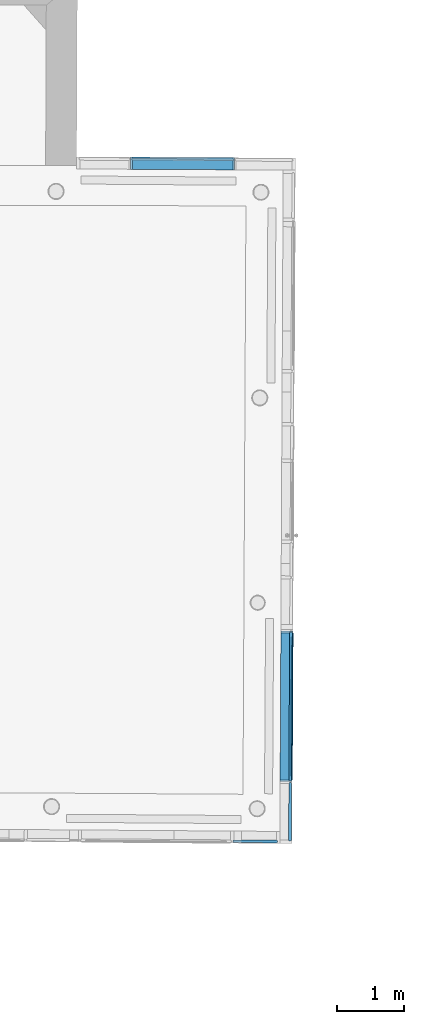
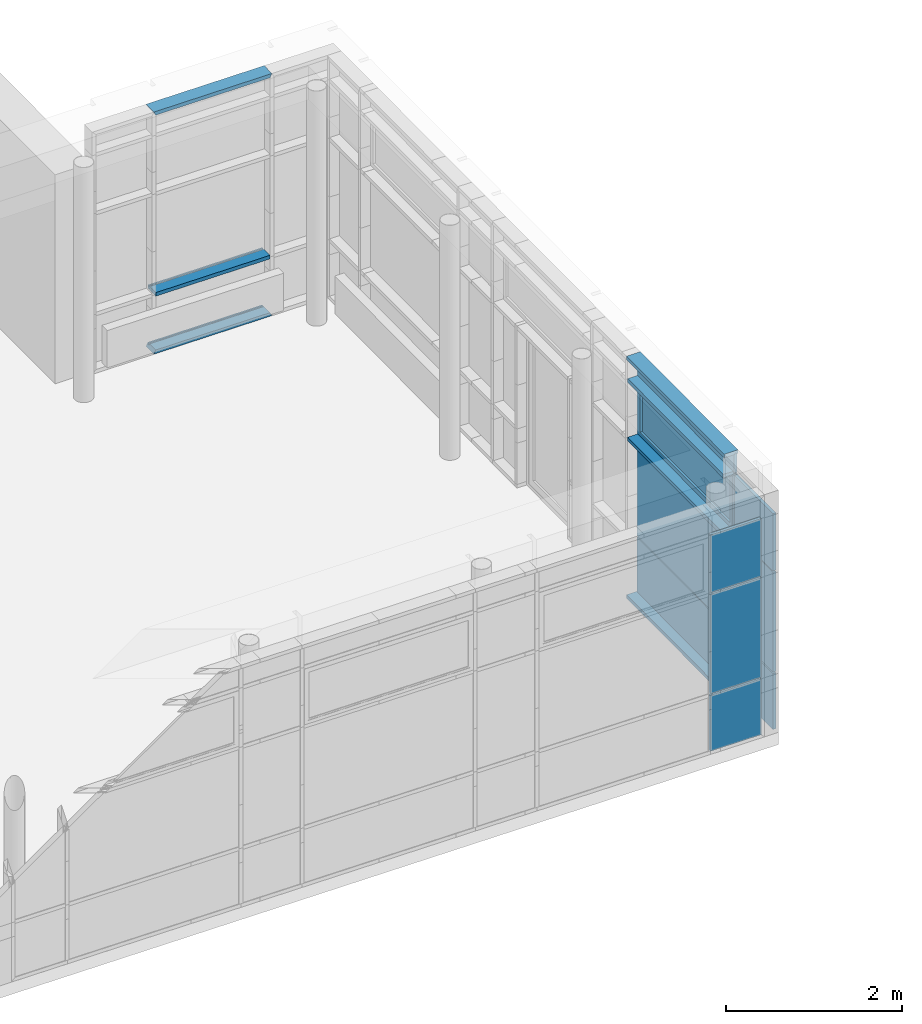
# One storey, part 143 of 196: 18 building element parts, 3 elements without a shape of their own.
"""IFC2X3 building model written with IfcOpenShell, lengths in metres."""

from ifc_helpers import new_model, entity, si_unit, converted_unit, derived_unit, money_unit, direction, frame, origin_with_axes, place, context, subcontext, project, spatial, faceted_brep, material, type_object, element, aggregate, save


model = new_model("IFC2X3")

# Units and contexts
model_context = context("Model", 3, precision=1e-05, world=origin_with_axes(), true_north=direction((0.0, 1.0)))
body_context = subcontext(model_context, "Body", "Model", "MODEL_VIEW")
ifc_project = project(units=[si_unit("LENGTHUNIT", "METRE"), si_unit("AREAUNIT", "SQUARE_METRE"), si_unit("VOLUMEUNIT", "CUBIC_METRE"), converted_unit("PLANEANGLEUNIT", "DEGREE", entity("IfcPlaneAngleMeasure", 0.0174532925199), si_unit("PLANEANGLEUNIT", "RADIAN"), dimensions=[0, 0, 0, 0, 0, 0, 0]), money_unit("EUR"), converted_unit("TIMEUNIT", "Year", entity("IfcTimeMeasure", 31556926.0), si_unit("TIMEUNIT", "SECOND"), dimensions=[0, 0, 1, 0, 0, 0, 0]), si_unit("MASSUNIT", "GRAM", prefix="KILO"), si_unit("THERMODYNAMICTEMPERATUREUNIT", "DEGREE_CELSIUS"), si_unit("LUMINOUSINTENSITYUNIT", "LUMEN"), si_unit("ENERGYUNIT", "JOULE", prefix="MEGA"), derived_unit("THERMALCONDUCTANCEUNIT", [(si_unit("POWERUNIT", "WATT"), 1), (si_unit("LENGTHUNIT", "METRE"), -1), (si_unit("THERMODYNAMICTEMPERATUREUNIT", "KELVIN"), -1)]), derived_unit("SPECIFICHEATCAPACITYUNIT", [(si_unit("ENERGYUNIT", "JOULE"), 1), (si_unit("MASSUNIT", "GRAM", prefix="KILO"), -1), (si_unit("THERMODYNAMICTEMPERATUREUNIT", "KELVIN"), -1)]), derived_unit("MASSDENSITYUNIT", [(si_unit("MASSUNIT", "GRAM", prefix="KILO"), 1), (si_unit("VOLUMEUNIT", "CUBIC_METRE"), -1)])], contexts=[model_context])

# Site, building, storey
site_placement = place(None, origin_with_axes())
site = spatial("IfcSite", under=ifc_project, at=site_placement, Name="Gelände", CompositionType="ELEMENT")
building_placement = place(site_placement, origin_with_axes())
building = spatial("IfcBuilding", under=site, at=building_placement, Name="Gebäude", CompositionType="ELEMENT")
storey_placement = place(building_placement, frame((0.0, 0.0, -3.0), z_axis=(0.0, 0.0, 1.0), x_axis=(1.0, 0.0, 0.0)))
storey = spatial("IfcBuildingStorey", under=building, at=storey_placement, Name="KELLERGESCHOSS", CompositionType="ELEMENT", Elevation=-3.0)

# Proxy, building element parts
building_element_proxy_type = type_object("IfcBuildingElementProxyType", Name="Fassadentyp", PredefinedType="NOTDEFINED")
proxy_1_placement = place(storey_placement, frame((2.54090824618, 35.7894672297, 0.610000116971), z_axis=(0.0, 0.0, 1.0), x_axis=(1.0, 0.0, 0.0)))
proxy_1 = element("IfcBuildingElementProxy", 1, at=proxy_1_placement, inside=storey, type_object=building_element_proxy_type, Name="Fassade-002")
ifc_material_1 = material(Name="45_Glas, Normalglas")
building_element_part_1_placement = place(proxy_1_placement, origin_with_axes())
building_element_part_1 = element("IfcBuildingElementPart", 2, at=building_element_part_1_placement, material=ifc_material_1, Name="45_Glas, Normalglas", context=body_context, shape_type="Brep", body=[
    faceted_brep([(6.42574015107, -0.0265612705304, 0.808463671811), (5.88927095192, -0.0226739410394, 0.808463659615), (5.88898111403, -0.0626728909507, 0.808463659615), (6.42545031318, -0.0665602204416, 0.808463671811), (6.42574015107, -0.0265612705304, 0.619999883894), (6.42574015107, -0.0265612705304, 0.0350000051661), (5.88927093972, -0.0226739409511, 0.0349999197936), (5.76502929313, -0.0217736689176, 0.0349999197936), (5.76502928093, -0.0217736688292, 0.619999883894), (5.76502928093, -0.0217736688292, 0.808463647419), (5.76473944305, -0.0617726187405, 0.808463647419), (5.76473944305, -0.0617726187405, 0.619999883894), (5.76473945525, -0.0617726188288, 0.0349999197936), (5.88898110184, -0.0626728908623, 0.0349999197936), (6.42545031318, -0.0665602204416, 0.0350000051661), (6.42545031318, -0.0665602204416, 0.619999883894)], [[[0, 1, 2, 3]], [[0, 4, 5, 6, 7, 8, 9, 1]], [[1, 9, 10, 2]], [[3, 2, 10, 11, 12, 13, 14, 15]], [[4, 0, 3, 15]], [[5, 4, 15, 14]], [[6, 5, 14, 13]], [[7, 6, 13, 12]], [[8, 7, 12, 11]], [[9, 8, 11, 10]]]),
])
building_element_part_2_placement = place(proxy_1_placement, origin_with_axes())
building_element_part_2 = element("IfcBuildingElementPart", 3, at=building_element_part_2_placement, material=ifc_material_1, Name="45_Glas, Normalglas", context=body_context, shape_type="Brep", body=[
    faceted_brep([(6.42574015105, -0.0265612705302, 3.02649576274), (5.8892709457, -0.0226739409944, 3.02649576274), (5.88898110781, -0.0626728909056, 3.02649576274), (6.42545031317, -0.0665602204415, 3.02649576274), (6.42574015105, -0.0265612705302, 2.51999987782), (6.42574015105, -0.0265612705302, 2.22648768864), (5.8892709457, -0.0226739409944, 2.22648768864), (5.76502928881, -0.0217736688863, 2.22648768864), (5.76502928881, -0.0217736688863, 2.51999987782), (5.76502928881, -0.0217736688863, 3.02649576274), (5.76473945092, -0.0617726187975, 3.02649576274), (5.76473945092, -0.0617726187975, 2.51999987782), (5.76473945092, -0.0617726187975, 2.22648768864), (5.88898110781, -0.0626728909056, 2.22648768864), (6.42545031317, -0.0665602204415, 2.22648768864), (6.42545031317, -0.0665602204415, 2.51999987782)], [[[0, 1, 2, 3]], [[0, 4, 5, 6, 7, 8, 9, 1]], [[1, 9, 10, 2]], [[3, 2, 10, 11, 12, 13, 14, 15]], [[4, 0, 3, 15]], [[5, 4, 15, 14]], [[6, 5, 14, 13]], [[7, 6, 13, 12]], [[8, 7, 12, 11]], [[9, 8, 11, 10]]]),
])
building_element_part_3_placement = place(proxy_1_placement, origin_with_axes())
building_element_part_3 = element("IfcBuildingElementPart", 4, at=building_element_part_3_placement, material=ifc_material_1, Name="45_Glas, Normalglas", context=body_context, shape_type="Brep", body=[
    faceted_brep([(6.42574014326, -0.0265612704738, 2.20648769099), (5.88927095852, -0.0226739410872, 2.20648769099), (5.88898112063, -0.0626728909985, 2.20648769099), (6.42545030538, -0.066560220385, 2.20648769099), (6.42574014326, -0.0265612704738, 1.41999988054), (6.42574014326, -0.0265612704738, 0.828463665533), (5.88927095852, -0.0226739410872, 0.828463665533), (5.76502928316, -0.0217736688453, 0.828463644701), (5.76502928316, -0.0217736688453, 1.41999988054), (5.76502928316, -0.0217736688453, 2.20648769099), (5.76473944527, -0.0617726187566, 2.20648769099), (5.76473944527, -0.0617726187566, 1.41999988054), (5.76473944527, -0.0617726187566, 0.828463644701), (5.88898112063, -0.0626728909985, 0.828463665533), (6.42545030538, -0.066560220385, 0.828463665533), (6.42545030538, -0.066560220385, 1.41999988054)], [[[0, 1, 2, 3]], [[0, 4, 5, 6, 7, 8, 9, 1]], [[1, 9, 10, 2]], [[3, 2, 10, 11, 12, 13, 14, 15]], [[4, 0, 3, 15]], [[5, 4, 15, 14]], [[6, 5, 14, 13]], [[7, 6, 13, 12]], [[8, 7, 12, 11]], [[9, 8, 11, 10]]]),
])
aggregate(proxy_1, [building_element_part_1, building_element_part_2, building_element_part_3])

proxy_2_placement = place(storey_placement, frame((9.16160365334, 37.7476945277, 0.610000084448), z_axis=(0.0, 0.0, 1.0), x_axis=(1.0, 0.0, 0.0)))
proxy_2 = element("IfcBuildingElementProxy", 5, at=proxy_2_placement, inside=storey, type_object=building_element_proxy_type, Name="Fassade-002")
building_element_part_4_placement = place(proxy_2_placement, origin_with_axes())
building_element_part_4 = element("IfcBuildingElementPart", 6, at=building_element_part_4_placement, material=ifc_material_1, Name="45_Glas, Normalglas", context=body_context, shape_type="Brep", body=[
    faceted_brep([(-0.0143916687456, 1.10641038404, 2.20916308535), (-0.0256078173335, -1.10620761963, 2.20916308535), (0.0143916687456, -1.10641038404, 2.20916308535), (0.0256078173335, 1.10620761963, 2.20916308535), (-0.0143916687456, 1.10641038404, 1.41999990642), (-0.0143916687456, 1.10641038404, 0.827169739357), (-0.0256078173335, -1.10620761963, 0.827169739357), (-0.0256078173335, -1.10620761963, 1.41999990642), (0.0143916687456, -1.10641038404, 1.41999990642), (0.0143916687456, -1.10641038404, 0.827169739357), (0.0256078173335, 1.10620761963, 0.827169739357), (0.0256078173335, 1.10620761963, 1.41999990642)], [[[0, 1, 2, 3]], [[0, 4, 5, 6, 7, 1]], [[1, 7, 8, 2]], [[3, 2, 8, 9, 10, 11]], [[4, 0, 3, 11]], [[5, 4, 11, 10]], [[6, 5, 10, 9]], [[7, 6, 9, 8]]]),
])
building_element_part_5_placement = place(proxy_2_placement, origin_with_axes())
building_element_part_5 = element("IfcBuildingElementPart", 7, at=building_element_part_5_placement, material=ifc_material_1, Name="45_Glas, Normalglas", context=body_context, shape_type="Brep", body=[
    faceted_brep([(-0.0257091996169, -1.12620737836, 2.20916309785), (-0.0301408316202, -2.00043873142, 2.20916309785), (0.00985865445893, -2.00064149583, 2.20916309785), (0.0142902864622, -1.12641014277, 2.20916309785), (-0.0257091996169, -1.12620737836, 1.41999990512), (-0.0257091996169, -1.12620737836, 0.827169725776), (-0.0301408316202, -2.00043873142, 0.827169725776), (-0.0301408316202, -2.00043873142, 1.41999990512), (0.00985865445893, -2.00064149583, 1.41999990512), (0.00985865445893, -2.00064149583, 0.827169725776), (0.0142902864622, -1.12641014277, 0.827169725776), (0.0142902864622, -1.12641014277, 1.41999990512)], [[[0, 1, 2, 3]], [[0, 4, 5, 6, 7, 1]], [[1, 7, 8, 2]], [[3, 2, 8, 9, 10, 11]], [[4, 0, 3, 11]], [[5, 4, 11, 10]], [[6, 5, 10, 9]], [[7, 6, 9, 8]]]),
])
building_element_part_6_placement = place(proxy_2_placement, origin_with_axes())
building_element_part_6 = element("IfcBuildingElementPart", 8, at=building_element_part_6_placement, material=ifc_material_1, Name="45_Glas, Normalglas", context=body_context, shape_type="Brep", body=[
    faceted_brep([(-0.0257091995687, -1.12620736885, 3.01949640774), (-0.030140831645, -2.00043873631, 3.01949640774), (0.00985865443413, -2.00064150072, 3.01949640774), (0.0142902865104, -1.12641013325, 3.01949640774), (-0.0257091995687, -1.12620736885, 2.51999991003), (-0.0257091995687, -1.12620736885, 2.22916309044), (-0.030140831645, -2.00043873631, 2.22916309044), (-0.030140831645, -2.00043873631, 2.51999991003), (0.00985865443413, -2.00064150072, 2.51999991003), (0.00985865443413, -2.00064150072, 2.22916309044), (0.0142902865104, -1.12641013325, 2.22916309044), (0.0142902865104, -1.12641013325, 2.51999991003)], [[[0, 1, 2, 3]], [[0, 4, 5, 6, 7, 1]], [[1, 7, 8, 2]], [[3, 2, 8, 9, 10, 11]], [[4, 0, 3, 11]], [[5, 4, 11, 10]], [[6, 5, 10, 9]], [[7, 6, 9, 8]]]),
])
building_element_part_7_placement = place(proxy_2_placement, origin_with_axes())
building_element_part_7 = element("IfcBuildingElementPart", 9, at=building_element_part_7_placement, material=ifc_material_1, Name="45_Glas, Normalglas", context=body_context, shape_type="Brep", body=[
    faceted_brep([(-0.0143916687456, 1.10641038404, 3.31499993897), (-0.0256078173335, -1.10620761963, 3.31499993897), (0.0143916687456, -1.10641038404, 3.31499993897), (0.0256078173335, 1.10620761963, 3.31499993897), (-0.0143916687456, 1.10641038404, 3.03949642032), (-0.0256078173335, -1.10620761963, 3.03949642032), (0.0143916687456, -1.10641038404, 3.03949642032), (0.0256078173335, 1.10620761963, 3.03949642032)], [[[0, 1, 2, 3]], [[0, 4, 5, 1]], [[1, 5, 6, 2]], [[3, 2, 6, 7]], [[4, 0, 3, 7]], [[5, 4, 7, 6]]]),
])
building_element_part_8_placement = place(proxy_2_placement, origin_with_axes())
building_element_part_8 = element("IfcBuildingElementPart", 10, at=building_element_part_8_placement, material=ifc_material_1, Name="45_Glas, Normalglas", context=body_context, shape_type="Brep", body=[
    faceted_brep([(-0.0143916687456, 1.10641038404, 0.807169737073), (-0.0256078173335, -1.10620761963, 0.807169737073), (0.0143916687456, -1.10641038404, 0.807169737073), (0.0256078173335, 1.10620761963, 0.807169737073), (-0.0143916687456, 1.10641038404, 0.619999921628), (-0.0143916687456, 1.10641038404, 0.0349998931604), (-0.0256078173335, -1.10620761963, 0.0349999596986), (-0.0256078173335, -1.10620761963, 0.619999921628), (0.0143916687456, -1.10641038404, 0.619999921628), (0.0143916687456, -1.10641038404, 0.0349999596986), (0.0256078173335, 1.10620761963, 0.0349998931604), (0.0256078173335, 1.10620761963, 0.619999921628)], [[[0, 1, 2, 3]], [[0, 4, 5, 6, 7, 1]], [[1, 7, 8, 2]], [[3, 2, 8, 9, 10, 11]], [[4, 0, 3, 11]], [[5, 4, 11, 10]], [[6, 5, 10, 9]], [[7, 6, 9, 8]]]),
])
building_element_part_9_placement = place(proxy_2_placement, origin_with_axes())
building_element_part_9 = element("IfcBuildingElementPart", 11, at=building_element_part_9_placement, material=ifc_material_1, Name="45_Glas, Normalglas", context=body_context, shape_type="Brep", body=[
    faceted_brep([(-0.0257091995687, -1.12620736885, 0.807169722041), (-0.030140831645, -2.00043873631, 0.807169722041), (0.00985865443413, -2.00064150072, 0.807169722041), (0.0142902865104, -1.12641013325, 0.807169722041), (-0.0257091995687, -1.12620736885, 0.619999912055), (-0.0257091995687, -1.12620736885, 0.0349999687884), (-0.030140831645, -2.00043873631, 0.034999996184), (-0.030140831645, -2.00043873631, 0.619999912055), (0.00985865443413, -2.00064150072, 0.619999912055), (0.00985865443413, -2.00064150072, 0.034999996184), (0.0142902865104, -1.12641013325, 0.0349999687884), (0.0142902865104, -1.12641013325, 0.619999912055)], [[[0, 1, 2, 3]], [[0, 4, 5, 6, 7, 1]], [[1, 7, 8, 2]], [[3, 2, 8, 9, 10, 11]], [[4, 0, 3, 11]], [[5, 4, 11, 10]], [[6, 5, 10, 9]], [[7, 6, 9, 8]]]),
])
ifc_material_2 = material(Name="53_Metall, Aluminium")
building_element_part_10_placement = place(proxy_2_placement, origin_with_axes())
building_element_part_10 = element("IfcBuildingElementPart", 12, at=building_element_part_10_placement, material=ifc_material_2, Name="53_Metall, Aluminium", context=body_context, shape_type="Brep", body=[
    faceted_brep([(0.0244675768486, -1.09146128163, 2.24416309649), (0.0355316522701, 1.09115713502, 2.24416309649), (0.04053158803, 1.09113178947, 2.24416309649), (0.0294675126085, -1.09148662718, 2.24416309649), (0.0246956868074, -1.04646185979, 2.28916309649), (0.0353035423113, 1.04615771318, 2.28916309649), (0.0403034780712, 1.04613236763, 2.28916309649), (0.0296956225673, -1.04648720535, 2.28916309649)], [[[0, 1, 2, 3]], [[0, 4, 5, 1]], [[1, 5, 6, 2]], [[3, 2, 6, 7]], [[4, 0, 3, 7]], [[5, 4, 7, 6]]]),
    faceted_brep([(0.0355316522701, 1.09115713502, 2.24416309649), (0.0355316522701, 1.09115713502, 3.00449640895), (0.04053158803, 1.09113178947, 3.00449640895), (0.04053158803, 1.09113178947, 2.24416309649), (0.0353035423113, 1.04615771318, 2.28916309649), (0.0353035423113, 1.04615771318, 2.95949640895), (0.0403034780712, 1.04613236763, 2.95949640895), (0.0403034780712, 1.04613236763, 2.28916309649)], [[[0, 1, 2, 3]], [[0, 4, 5, 1]], [[1, 5, 6, 2]], [[3, 2, 6, 7]], [[4, 0, 3, 7]], [[5, 4, 7, 6]]]),
    faceted_brep([(0.0244675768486, -1.09146128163, 3.00449640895), (0.0246956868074, -1.04646185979, 2.95949640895), (0.0296956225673, -1.04648720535, 2.95949640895), (0.0294675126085, -1.09148662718, 3.00449640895), (0.0355316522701, 1.09115713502, 3.00449640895), (0.0353035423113, 1.04615771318, 2.95949640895), (0.0403034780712, 1.04613236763, 2.95949640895), (0.04053158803, 1.09113178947, 3.00449640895)], [[[0, 1, 2, 3]], [[0, 4, 5, 1]], [[1, 5, 6, 2]], [[3, 2, 6, 7]], [[4, 0, 3, 7]], [[5, 4, 7, 6]]]),
    faceted_brep([(0.0244675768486, -1.09146128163, 2.24416309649), (0.0246956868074, -1.04646185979, 2.28916309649), (0.0296956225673, -1.04648720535, 2.28916309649), (0.0294675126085, -1.09148662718, 2.24416309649), (0.0244675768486, -1.09146128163, 3.00449640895), (0.0246956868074, -1.04646185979, 2.95949640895), (0.0296956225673, -1.04648720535, 2.95949640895), (0.0294675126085, -1.09148662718, 3.00449640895)], [[[0, 1, 2, 3]], [[0, 4, 5, 1]], [[1, 5, 6, 2]], [[3, 2, 6, 7]], [[4, 0, 3, 7]], [[5, 4, 7, 6]]]),
    faceted_brep([(-0.0255317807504, -1.09120782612, 2.24416309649), (-0.0144677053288, 1.09141059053, 2.24416309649), (0.0355316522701, 1.09115713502, 2.24416309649), (0.0244675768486, -1.09146128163, 2.24416309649), (-0.0254303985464, -1.07120808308, 2.26416309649), (-0.0145690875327, 1.07141084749, 2.26416309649), (0.0354302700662, 1.07115739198, 2.26416309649), (0.0245689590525, -1.07146153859, 2.26416309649)], [[[0, 1, 2, 3]], [[0, 4, 5, 1]], [[1, 5, 6, 2]], [[3, 2, 6, 7]], [[4, 0, 3, 7]], [[5, 4, 7, 6]]]),
    faceted_brep([(-0.0144677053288, 1.09141059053, 2.24416309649), (-0.0144677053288, 1.09141059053, 3.00449640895), (0.0355316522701, 1.09115713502, 3.00449640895), (0.0355316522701, 1.09115713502, 2.24416309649), (-0.0145690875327, 1.07141084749, 2.26416309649), (-0.0145690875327, 1.07141084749, 2.98449640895), (0.0354302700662, 1.07115739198, 2.98449640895), (0.0354302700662, 1.07115739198, 2.26416309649)], [[[0, 1, 2, 3]], [[0, 4, 5, 1]], [[1, 5, 6, 2]], [[3, 2, 6, 7]], [[4, 0, 3, 7]], [[5, 4, 7, 6]]]),
    faceted_brep([(-0.0255317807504, -1.09120782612, 3.00449640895), (-0.0254303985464, -1.07120808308, 2.98449640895), (0.0245689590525, -1.07146153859, 2.98449640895), (0.0244675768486, -1.09146128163, 3.00449640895), (-0.0144677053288, 1.09141059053, 3.00449640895), (-0.0145690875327, 1.07141084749, 2.98449640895), (0.0354302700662, 1.07115739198, 2.98449640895), (0.0355316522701, 1.09115713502, 3.00449640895)], [[[0, 1, 2, 3]], [[0, 4, 5, 1]], [[1, 5, 6, 2]], [[3, 2, 6, 7]], [[4, 0, 3, 7]], [[5, 4, 7, 6]]]),
    faceted_brep([(-0.0255317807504, -1.09120782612, 2.24416309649), (-0.0254303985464, -1.07120808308, 2.26416309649), (0.0245689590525, -1.07146153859, 2.26416309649), (0.0244675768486, -1.09146128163, 2.24416309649), (-0.0255317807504, -1.09120782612, 3.00449640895), (-0.0254303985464, -1.07120808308, 2.98449640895), (0.0245689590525, -1.07146153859, 2.98449640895), (0.0244675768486, -1.09146128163, 3.00449640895)], [[[0, 1, 2, 3]], [[0, 4, 5, 1]], [[1, 5, 6, 2]], [[3, 2, 6, 7]], [[4, 0, 3, 7]], [[5, 4, 7, 6]]]),
    faceted_brep([(-0.0256078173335, -1.10620761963, 2.22916311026), (-0.0143916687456, 1.10641038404, 2.22916311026), (0.0256078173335, 1.10620761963, 2.22916311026), (0.0143916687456, -1.10641038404, 2.22916311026), (-0.0255317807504, -1.09120782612, 2.24416309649), (-0.0144677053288, 1.09141059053, 2.24416309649), (0.0255317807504, 1.09120782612, 2.24416309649), (0.0144677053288, -1.09141059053, 2.24416309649)], [[[0, 1, 2, 3]], [[0, 4, 5, 1]], [[1, 5, 6, 2]], [[3, 2, 6, 7]], [[4, 0, 3, 7]], [[5, 4, 7, 6]]]),
    faceted_brep([(-0.0143916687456, 1.10641038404, 2.22916311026), (-0.0143916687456, 1.10641038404, 3.01949639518), (0.0256078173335, 1.10620761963, 3.01949639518), (0.0256078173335, 1.10620761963, 2.22916311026), (-0.0144677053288, 1.09141059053, 2.24416309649), (-0.0144677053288, 1.09141059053, 3.00449640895), (0.0255317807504, 1.09120782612, 3.00449640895), (0.0255317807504, 1.09120782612, 2.24416309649)], [[[0, 1, 2, 3]], [[0, 4, 5, 1]], [[1, 5, 6, 2]], [[3, 2, 6, 7]], [[4, 0, 3, 7]], [[5, 4, 7, 6]]]),
    faceted_brep([(-0.0143916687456, 1.10641038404, 3.01949639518), (-0.0256078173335, -1.10620761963, 3.01949639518), (0.0143916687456, -1.10641038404, 3.01949639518), (0.0256078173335, 1.10620761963, 3.01949639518), (-0.0144677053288, 1.09141059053, 3.00449640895), (-0.0255317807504, -1.09120782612, 3.00449640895), (0.0144677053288, -1.09141059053, 3.00449640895), (0.0255317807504, 1.09120782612, 3.00449640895)], [[[0, 1, 2, 3]], [[0, 4, 5, 1]], [[1, 5, 6, 2]], [[3, 2, 6, 7]], [[4, 0, 3, 7]], [[5, 4, 7, 6]]]),
    faceted_brep([(-0.0256078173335, -1.10620761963, 3.01949639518), (-0.0256078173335, -1.10620761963, 2.22916311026), (0.0143916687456, -1.10641038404, 2.22916311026), (0.0143916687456, -1.10641038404, 3.01949639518), (-0.0255317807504, -1.09120782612, 3.00449640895), (-0.0255317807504, -1.09120782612, 2.24416309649), (0.0144677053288, -1.09141059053, 2.24416309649), (0.0144677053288, -1.09141059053, 3.00449640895)], [[[0, 1, 2, 3]], [[0, 4, 5, 1]], [[1, 5, 6, 2]], [[3, 2, 6, 7]], [[4, 0, 3, 7]], [[5, 4, 7, 6]]]),
    faceted_brep([(0.0247970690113, -1.02646211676, 2.30916309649), (-0.0302022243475, -1.02618331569, 2.30916309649), (-0.0302022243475, -1.02618331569, 2.93949640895), (0.0247970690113, -1.02646211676, 2.93949640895), (0.0245689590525, -1.07146153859, 2.26416309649), (-0.0304303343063, -1.07118273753, 2.26416309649), (-0.0304303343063, -1.07118273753, 2.98449640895), (0.0245689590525, -1.07146153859, 2.98449640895)], [[[0, 1, 2, 3]], [[4, 5, 1, 0]], [[1, 5, 6, 2]], [[3, 2, 6, 7]], [[0, 3, 7, 4]], [[7, 6, 5, 4]]]),
    faceted_brep([(0.0354302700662, 1.07115739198, 2.26416309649), (-0.0195690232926, 1.07143619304, 2.26416309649), (-0.0195690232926, 1.07143619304, 2.98449640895), (0.0354302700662, 1.07115739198, 2.98449640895), (0.0352021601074, 1.02615797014, 2.30916309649), (-0.0197971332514, 1.0264367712, 2.30916309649), (-0.0197971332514, 1.0264367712, 2.93949640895), (0.0352021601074, 1.02615797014, 2.93949640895)], [[[0, 1, 2, 3]], [[4, 5, 1, 0]], [[1, 5, 6, 2]], [[3, 2, 6, 7]], [[0, 3, 7, 4]], [[7, 6, 5, 4]]]),
    faceted_brep([(0.0354302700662, 1.07115739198, 2.26416309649), (-0.0195690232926, 1.07143619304, 2.26416309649), (-0.0197971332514, 1.0264367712, 2.30916309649), (0.0352021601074, 1.02615797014, 2.30916309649), (0.0245689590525, -1.07146153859, 2.26416309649), (-0.0304303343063, -1.07118273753, 2.26416309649), (-0.0302022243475, -1.02618331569, 2.30916309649), (0.0247970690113, -1.02646211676, 2.30916309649)], [[[0, 1, 2, 3]], [[4, 5, 1, 0]], [[1, 5, 6, 2]], [[3, 2, 6, 7]], [[0, 3, 7, 4]], [[7, 6, 5, 4]]]),
    faceted_brep([(0.0245689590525, -1.07146153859, 2.98449640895), (-0.0304303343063, -1.07118273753, 2.98449640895), (-0.0302022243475, -1.02618331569, 2.93949640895), (0.0247970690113, -1.02646211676, 2.93949640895), (0.0354302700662, 1.07115739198, 2.98449640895), (-0.0195690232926, 1.07143619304, 2.98449640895), (-0.0197971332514, 1.0264367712, 2.93949640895), (0.0352021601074, 1.02615797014, 2.93949640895)], [[[0, 1, 2, 3]], [[4, 5, 1, 0]], [[1, 5, 6, 2]], [[3, 2, 6, 7]], [[0, 3, 7, 4]], [[7, 6, 5, 4]]]),
])
building_element_part_11_placement = place(proxy_2_placement, origin_with_axes())
building_element_part_11 = element("IfcBuildingElementPart", 13, at=building_element_part_11_placement, material=ifc_material_1, Name="45_Glas, Normalglas", context=body_context, shape_type="Brep", body=[
    faceted_brep([(0.0147971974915, -1.02641142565, 2.30916309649), (-0.00120259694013, -1.02633031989, 2.30916309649), (0.00920249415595, 1.02628976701, 2.30916309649), (0.0252022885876, 1.02620866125, 2.30916309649), (0.0147971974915, -1.02641142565, 2.93949640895), (-0.00120259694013, -1.02633031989, 2.93949640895), (0.00920249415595, 1.02628976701, 2.93949640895), (0.0252022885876, 1.02620866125, 2.93949640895)], [[[0, 1, 2, 3]], [[4, 5, 1, 0]], [[1, 5, 6, 2]], [[3, 2, 6, 7]], [[0, 3, 7, 4]], [[7, 6, 5, 4]]]),
])
building_element_part_12_placement = place(proxy_2_placement, origin_with_axes())
building_element_part_12 = element("IfcBuildingElementPart", 14, at=building_element_part_12_placement, material=ifc_material_2, Name="53_Metall, Aluminium", context=body_context, shape_type="Brep", body=[
    faceted_brep([(-0.00434110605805, 1.11635957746, 3.31499994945), (-0.00434110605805, 1.11635957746, 3.29999994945), (-0.144339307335, 1.11706925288, 3.29999994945), (-0.144339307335, 1.11706925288, 3.34999994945), (0.0356583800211, 1.11615681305, 3.34999994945), (0.0356583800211, 1.11615681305, 3.29999994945), (0.0156586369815, 1.11625819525, 3.29999994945), (0.0156586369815, 1.11625819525, 3.31499994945), (-0.0156586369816, -1.11625819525, 3.31499994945), (-0.0156586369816, -1.11625819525, 3.29999994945), (-0.155656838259, -1.11554851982, 3.29999994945), (-0.155656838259, -1.11554851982, 3.34999994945), (0.0243408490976, -1.11646095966, 3.34999994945), (0.0243408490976, -1.11646095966, 3.29999994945), (0.00434110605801, -1.11635957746, 3.29999994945), (0.00434110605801, -1.11635957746, 3.31499994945)], [[[0, 1, 2, 3, 4, 5, 6, 7]], [[0, 8, 9, 1]], [[9, 10, 2, 1]], [[10, 11, 3, 2]], [[11, 12, 4, 3]], [[12, 13, 5, 4]], [[6, 5, 13, 14]], [[14, 15, 7, 6]], [[7, 15, 8, 0]], [[8, 15, 14, 13, 12, 11, 10, 9]]]),
])
building_element_part_13_placement = place(proxy_2_placement, origin_with_axes())
building_element_part_13 = element("IfcBuildingElementPart", 15, at=building_element_part_13_placement, material=ifc_material_2, Name="53_Metall, Aluminium", context=body_context, shape_type="Brep", body=[
    faceted_brep([(-0.00434110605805, 1.11635957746, 0.0349999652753), (0.0156586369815, 1.11625819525, 0.0349999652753), (0.0156586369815, 1.11625819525, 0.0499999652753), (0.0356583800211, 1.11615681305, 0.0499999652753), (0.0356583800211, 1.11615681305, -3.47247155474e-08), (-0.144339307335, 1.11706925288, -3.47247155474e-08), (-0.144339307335, 1.11706925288, 0.0499999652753), (-0.00434110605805, 1.11635957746, 0.0499999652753), (-0.0156586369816, -1.11625819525, 0.0349999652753), (0.00434110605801, -1.11635957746, 0.0349999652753), (0.00434110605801, -1.11635957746, 0.0499999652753), (0.0243408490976, -1.11646095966, 0.0499999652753), (0.0243408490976, -1.11646095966, -3.47247155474e-08), (-0.155656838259, -1.11554851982, -3.47247155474e-08), (-0.155656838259, -1.11554851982, 0.0499999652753), (-0.0156586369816, -1.11625819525, 0.0499999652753)], [[[0, 1, 2, 3, 4, 5, 6, 7]], [[1, 0, 8, 9]], [[10, 2, 1, 9]], [[2, 10, 11, 3]], [[12, 4, 3, 11]], [[13, 5, 4, 12]], [[14, 6, 5, 13]], [[15, 7, 6, 14]], [[0, 7, 15, 8]], [[8, 15, 14, 13, 12, 11, 10, 9]]]),
])
building_element_part_14_placement = place(proxy_2_placement, origin_with_axes())
building_element_part_14 = element("IfcBuildingElementPart", 16, at=building_element_part_14_placement, material=ifc_material_2, Name="53_Metall, Aluminium", context=body_context, shape_type="Brep", body=[
    faceted_brep([(-0.00446783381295, 1.09135989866, 3.01949640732), (-0.00446783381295, 1.09135989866, 3.00449640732), (-0.14446603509, 1.09206957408, 3.00449640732), (-0.14446603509, 1.09206957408, 3.05449640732), (-0.00446783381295, 1.09135989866, 3.05449640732), (-0.00446783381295, 1.09135989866, 3.03949640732), (0.0155319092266, 1.09125851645, 3.03949640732), (0.0155319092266, 1.09125851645, 3.05449640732), (0.0355316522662, 1.09115713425, 3.05449640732), (0.0355316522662, 1.09115713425, 3.00449640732), (0.0155319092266, 1.09125851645, 3.00449640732), (0.0155319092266, 1.09125851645, 3.01949640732), (-0.0155319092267, -1.09125851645, 3.01949640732), (-0.0155319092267, -1.09125851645, 3.00449640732), (-0.155530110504, -1.09054884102, 3.00449640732), (-0.155530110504, -1.09054884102, 3.05449640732), (-0.0155319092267, -1.09125851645, 3.05449640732), (-0.0155319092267, -1.09125851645, 3.03949640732), (0.00446783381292, -1.09135989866, 3.03949640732), (0.00446783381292, -1.09135989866, 3.05449640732), (0.0244675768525, -1.09146128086, 3.05449640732), (0.0244675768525, -1.09146128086, 3.00449640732), (0.00446783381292, -1.09135989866, 3.00449640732), (0.00446783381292, -1.09135989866, 3.01949640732)], [[[0, 1, 2, 3, 4, 5, 6, 7, 8, 9, 10, 11]], [[1, 0, 12, 13]], [[1, 13, 14, 2]], [[2, 14, 15, 3]], [[4, 3, 15, 16]], [[4, 16, 17, 5]], [[5, 17, 18, 6]], [[7, 6, 18, 19]], [[19, 20, 8, 7]], [[8, 20, 21, 9]], [[22, 10, 9, 21]], [[11, 10, 22, 23]], [[0, 11, 23, 12]], [[23, 22, 21, 20, 19, 18, 17, 16, 15, 14, 13, 12]]]),
])
building_element_part_15_placement = place(proxy_2_placement, origin_with_axes())
building_element_part_15 = element("IfcBuildingElementPart", 17, at=building_element_part_15_placement, material=ifc_material_2, Name="53_Metall, Aluminium", context=body_context, shape_type="Brep", body=[
    faceted_brep([(-0.00446783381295, 1.09135989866, 2.20916309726), (-0.00446783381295, 1.09135989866, 2.19416309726), (-0.14446603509, 1.09206957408, 2.19416309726), (-0.14446603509, 1.09206957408, 2.24416309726), (-0.00446783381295, 1.09135989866, 2.24416309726), (-0.00446783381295, 1.09135989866, 2.22916309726), (0.0155319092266, 1.09125851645, 2.22916309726), (0.0155319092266, 1.09125851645, 2.24416309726), (0.0355316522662, 1.09115713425, 2.24416309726), (0.0355316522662, 1.09115713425, 2.19416309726), (0.0155319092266, 1.09125851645, 2.19416309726), (0.0155319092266, 1.09125851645, 2.20916309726), (-0.0155319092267, -1.09125851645, 2.20916309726), (-0.0155319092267, -1.09125851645, 2.19416309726), (-0.155530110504, -1.09054884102, 2.19416309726), (-0.155530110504, -1.09054884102, 2.24416309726), (-0.0155319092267, -1.09125851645, 2.24416309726), (-0.0155319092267, -1.09125851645, 2.22916309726), (0.00446783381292, -1.09135989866, 2.22916309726), (0.00446783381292, -1.09135989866, 2.24416309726), (0.0244675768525, -1.09146128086, 2.24416309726), (0.0244675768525, -1.09146128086, 2.19416309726), (0.00446783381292, -1.09135989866, 2.19416309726), (0.00446783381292, -1.09135989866, 2.20916309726)], [[[0, 1, 2, 3, 4, 5, 6, 7, 8, 9, 10, 11]], [[1, 0, 12, 13]], [[1, 13, 14, 2]], [[2, 14, 15, 3]], [[4, 3, 15, 16]], [[4, 16, 17, 5]], [[5, 17, 18, 6]], [[7, 6, 18, 19]], [[19, 20, 8, 7]], [[8, 20, 21, 9]], [[22, 10, 9, 21]], [[11, 10, 22, 23]], [[0, 11, 23, 12]], [[23, 22, 21, 20, 19, 18, 17, 16, 15, 14, 13, 12]]]),
])
aggregate(proxy_2, [building_element_part_4, building_element_part_5, building_element_part_6, building_element_part_7, building_element_part_8, building_element_part_9, building_element_part_10, building_element_part_11, building_element_part_12, building_element_part_13, building_element_part_14, building_element_part_15])

proxy_3_placement = place(storey_placement, frame((8.78139895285, 45.8579301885, 0.610000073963), z_axis=(0.0, 0.0, 1.0), x_axis=(1.0, 0.0, 0.0)))
proxy_3 = element("IfcBuildingElementProxy", 18, at=proxy_3_placement, inside=storey, type_object=building_element_proxy_type, Name="Fassade-002")
building_element_part_16_placement = place(proxy_3_placement, origin_with_axes())
building_element_part_16 = element("IfcBuildingElementPart", 19, at=building_element_part_16_placement, material=ifc_material_2, Name="53_Metall, Aluminium", context=body_context, shape_type="Brep", body=[
    faceted_brep([(-1.9746523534, 0.00112202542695, 3.31500001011), (-1.96715247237, 0.0010797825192, 3.30000001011), (-1.96794100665, -0.138917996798, 3.30000001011), (-1.9929406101, -0.138777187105, 3.35000001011), (-1.99192678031, 0.0412199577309, 3.35000001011), (-1.96692717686, 0.0410791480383, 3.30000001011), (-1.96703982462, 0.0210794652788, 3.30000001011), (-1.97453970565, 0.0211217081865, 3.31500001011), (-0.468944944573, -0.00735883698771, 3.31500001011), (-0.476444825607, -0.00731659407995, 3.30000001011), (-0.477233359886, -0.147314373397, 3.30000001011), (-0.452233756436, -0.147455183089, 3.35000001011), (-0.45121992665, 0.0325419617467, 3.35000001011), (-0.476219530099, 0.0326827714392, 3.30000001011), (-0.476332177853, 0.0126830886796, 3.30000001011), (-0.468832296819, 0.0126408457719, 3.31500001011)], [[[0, 1, 2, 3, 4, 5, 6, 7]], [[0, 8, 9, 1]], [[9, 10, 2, 1]], [[2, 10, 11, 3]], [[3, 11, 12, 4]], [[4, 12, 13, 5]], [[6, 5, 13, 14]], [[14, 15, 7, 6]], [[7, 15, 8, 0]], [[8, 15, 14, 13, 12, 11, 10, 9]]]),
])
building_element_part_17_placement = place(proxy_3_placement, origin_with_axes())
building_element_part_17 = element("IfcBuildingElementPart", 20, at=building_element_part_17_placement, material=ifc_material_2, Name="53_Metall, Aluminium", context=body_context, shape_type="Brep", body=[
    faceted_brep([(-1.96715247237, 0.0010797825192, 0.808683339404), (-1.96715247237, 0.0010797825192, 0.793683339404), (-1.96794100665, -0.138917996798, 0.793683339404), (-1.96794100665, -0.138917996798, 0.843683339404), (-1.96715247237, 0.0010797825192, 0.843683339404), (-1.96715247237, 0.0010797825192, 0.828683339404), (-1.96703982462, 0.0210794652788, 0.828683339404), (-1.96703982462, 0.0210794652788, 0.843683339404), (-1.96692717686, 0.0410791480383, 0.843683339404), (-1.96692717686, 0.0410791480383, 0.793683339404), (-1.96703982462, 0.0210794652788, 0.793683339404), (-1.96703982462, 0.0210794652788, 0.808683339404), (-0.476444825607, -0.00731659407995, 0.808683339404), (-0.476444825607, -0.00731659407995, 0.793683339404), (-0.477233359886, -0.147314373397, 0.793683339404), (-0.477233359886, -0.147314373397, 0.843683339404), (-0.476444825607, -0.00731659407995, 0.843683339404), (-0.476444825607, -0.00731659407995, 0.828683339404), (-0.476332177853, 0.0126830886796, 0.828683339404), (-0.476332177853, 0.0126830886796, 0.843683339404), (-0.476219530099, 0.0326827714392, 0.843683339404), (-0.476219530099, 0.0326827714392, 0.793683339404), (-0.476332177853, 0.0126830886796, 0.793683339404), (-0.476332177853, 0.0126830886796, 0.808683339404)], [[[0, 1, 2, 3, 4, 5, 6, 7, 8, 9, 10, 11]], [[1, 0, 12, 13]], [[1, 13, 14, 2]], [[2, 14, 15, 3]], [[4, 3, 15, 16]], [[4, 16, 17, 5]], [[5, 17, 18, 6]], [[7, 6, 18, 19]], [[19, 20, 8, 7]], [[8, 20, 21, 9]], [[22, 10, 9, 21]], [[11, 10, 22, 23]], [[0, 11, 23, 12]], [[23, 22, 21, 20, 19, 18, 17, 16, 15, 14, 13, 12]]]),
])
building_element_part_18_placement = place(proxy_3_placement, origin_with_axes())
building_element_part_18 = element("IfcBuildingElementPart", 21, at=building_element_part_18_placement, material=ifc_material_2, Name="53_Metall, Aluminium", context=body_context, shape_type="Brep", body=[
    faceted_brep([(-1.9746523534, 0.00112202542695, 0.035), (-1.97453970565, 0.0211217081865, 0.035), (-1.96703982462, 0.0210794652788, 0.05), (-1.96692717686, 0.0410791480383, 0.05), (-1.99192678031, 0.0412199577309, 0.0), (-1.9929406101, -0.138777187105, 0.0), (-1.96794100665, -0.138917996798, 0.05), (-1.96715247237, 0.0010797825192, 0.05), (-0.468944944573, -0.00735883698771, 0.035), (-0.468832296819, 0.0126408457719, 0.035), (-0.476332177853, 0.0126830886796, 0.05), (-0.476219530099, 0.0326827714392, 0.05), (-0.45121992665, 0.0325419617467, 0.0), (-0.452233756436, -0.147455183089, 0.0), (-0.477233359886, -0.147314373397, 0.05), (-0.476444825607, -0.00731659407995, 0.05)], [[[0, 1, 2, 3, 4, 5, 6, 7]], [[1, 0, 8, 9]], [[10, 2, 1, 9]], [[2, 10, 11, 3]], [[4, 3, 11, 12]], [[5, 4, 12, 13]], [[6, 5, 13, 14]], [[15, 7, 6, 14]], [[0, 7, 15, 8]], [[8, 15, 14, 13, 12, 11, 10, 9]]]),
])
aggregate(proxy_3, [building_element_part_16, building_element_part_17, building_element_part_18])

save(model, "model.ifc")
